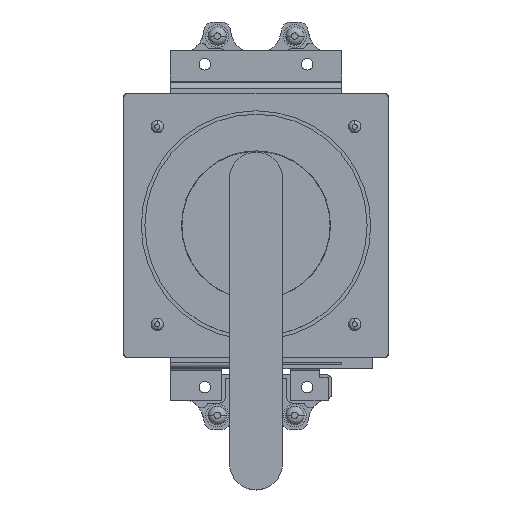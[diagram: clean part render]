
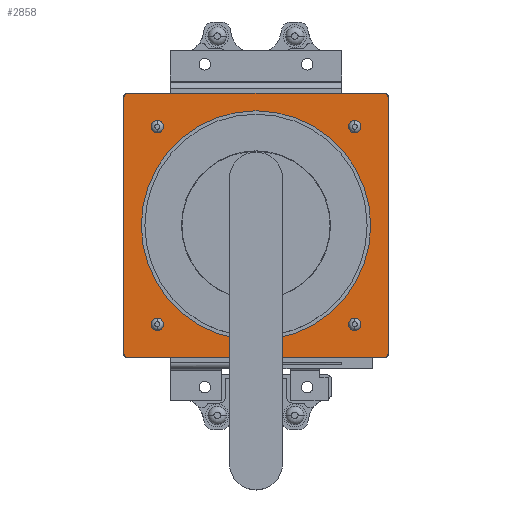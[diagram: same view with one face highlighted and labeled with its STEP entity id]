
A CAD part, top view. The second image highlights one B-rep face of the part: STEP entity #2858.
In plain terms, the highlighted planar face has unit normal (0, 0, 1).
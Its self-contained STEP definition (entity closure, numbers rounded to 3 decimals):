
#2858 = ADVANCED_FACE( '', ( #8042, #8043, #8044, #8045, #8046, #8047 ), #8048, .T. );
#2988 = VERTEX_POINT( '', #8186 );
#3186 = VERTEX_POINT( '', #8405 );
#3206 = VERTEX_POINT( '', #8427 );
#3508 = EDGE_CURVE( '', #3528, #7302, #8768, .T. );
#3516 = EDGE_CURVE( '', #5570, #5682, #8776, .T. );
#3528 = VERTEX_POINT( '', #8789 );
#3536 = VERTEX_POINT( '', #8798 );
#3690 = VERTEX_POINT( '', #8962 );
#3744 = VERTEX_POINT( '', #9023 );
#4008 = EDGE_CURVE( '', #3186, #5134, #9314, .T. );
#4048 = EDGE_CURVE( '', #5134, #3744, #9359, .T. );
#4052 = EDGE_CURVE( '', #3744, #4478, #9363, .T. );
#4262 = EDGE_CURVE( '', #5302, #3536, #9598, .T. );
#4478 = VERTEX_POINT( '', #9841 );
#4698 = EDGE_CURVE( '', #3206, #6668, #10082, .T. );
#4700 = EDGE_CURVE( '', #6668, #3206, #10084, .T. );
#4864 = EDGE_CURVE( '', #2988, #6952, #10275, .T. );
#5134 = VERTEX_POINT( '', #10575 );
#5302 = VERTEX_POINT( '', #10757 );
#5502 = EDGE_CURVE( '', #7406, #3690, #10976, .T. );
#5570 = VERTEX_POINT( '', #11047 );
#5682 = VERTEX_POINT( '', #11179 );
#5932 = VERTEX_POINT( '', #11450 );
#6160 = EDGE_CURVE( '', #5682, #6284, #11706, .T. );
#6284 = VERTEX_POINT( '', #11850 );
#6378 = EDGE_CURVE( '', #6952, #2988, #11951, .T. );
#6408 = EDGE_CURVE( '', #6284, #5932, #11982, .T. );
#6622 = EDGE_CURVE( '', #3536, #5302, #12217, .T. );
#6668 = VERTEX_POINT( '', #12268 );
#6952 = VERTEX_POINT( '', #12584 );
#6986 = EDGE_CURVE( '', #7302, #3528, #12625, .T. );
#7102 = EDGE_CURVE( '', #5932, #3186, #12756, .T. );
#7302 = VERTEX_POINT( '', #12974 );
#7406 = VERTEX_POINT( '', #13086 );
#7458 = EDGE_CURVE( '', #3690, #7406, #13143, .T. );
#7750 = EDGE_CURVE( '', #4478, #5570, #13468, .T. );
#8042 = FACE_BOUND( '', #13847, .T. );
#8043 = FACE_OUTER_BOUND( '', #13848, .T. );
#8044 = FACE_BOUND( '', #13849, .T. );
#8045 = FACE_BOUND( '', #13850, .T. );
#8046 = FACE_BOUND( '', #13851, .T. );
#8047 = FACE_BOUND( '', #13852, .T. );
#8048 = PLANE( '', #13853 );
#8186 = CARTESIAN_POINT( '', ( 56., 58., 37.6 ) );
#8405 = CARTESIAN_POINT( '', ( -72., -75., 37.6 ) );
#8427 = CARTESIAN_POINT( '', ( -56., -54., 37.6 ) );
#8768 = CIRCLE( '', #14811, 65. );
#8776 = CIRCLE( '', #14824, 3. );
#8789 = CARTESIAN_POINT( '', ( 0., 65., 37.6 ) );
#8798 = CARTESIAN_POINT( '', ( 56., -54., 37.6 ) );
#8962 = CARTESIAN_POINT( '', ( -56., 58., 37.6 ) );
#9023 = CARTESIAN_POINT( '', ( -75., 72., 37.6 ) );
#9314 = CIRCLE( '', #15539, 3. );
#9359 = LINE( '', #15598, #15599 );
#9363 = CIRCLE( '', #15604, 3. );
#9598 = CIRCLE( '', #15940, 2. );
#9841 = CARTESIAN_POINT( '', ( -72., 75., 37.6 ) );
#10082 = CIRCLE( '', #16584, 2. );
#10084 = CIRCLE( '', #16587, 2. );
#10275 = CIRCLE( '', #16839, 2. );
#10575 = CARTESIAN_POINT( '', ( -75., -72., 37.6 ) );
#10757 = CARTESIAN_POINT( '', ( 56., -58., 37.6 ) );
#10976 = CIRCLE( '', #17776, 2. );
#11047 = CARTESIAN_POINT( '', ( 72., 75., 37.6 ) );
#11179 = CARTESIAN_POINT( '', ( 75., 72., 37.6 ) );
#11450 = CARTESIAN_POINT( '', ( 72., -75., 37.6 ) );
#11706 = LINE( '', #18761, #18762 );
#11850 = CARTESIAN_POINT( '', ( 75., -72., 37.6 ) );
#11951 = CIRCLE( '', #19081, 2. );
#11982 = CIRCLE( '', #19123, 3. );
#12217 = CIRCLE( '', #19444, 2. );
#12268 = CARTESIAN_POINT( '', ( -56., -58., 37.6 ) );
#12584 = CARTESIAN_POINT( '', ( 56., 54., 37.6 ) );
#12625 = CIRCLE( '', #19983, 65. );
#12756 = LINE( '', #20163, #20164 );
#12974 = CARTESIAN_POINT( '', ( 0., -65., 37.6 ) );
#13086 = CARTESIAN_POINT( '', ( -56., 54., 37.6 ) );
#13143 = CIRCLE( '', #20676, 2. );
#13468 = LINE( '', #21112, #21113 );
#13847 = EDGE_LOOP( '', ( #21384, #21385 ) );
#13848 = EDGE_LOOP( '', ( #21386, #21387, #21388, #21389, #21390, #21391, #21392, #21393 ) );
#13849 = EDGE_LOOP( '', ( #21394, #21395 ) );
#13850 = EDGE_LOOP( '', ( #21396, #21397 ) );
#13851 = EDGE_LOOP( '', ( #21398, #21399 ) );
#13852 = EDGE_LOOP( '', ( #21400, #21401 ) );
#13853 = AXIS2_PLACEMENT_3D( '', #21402, #21403, #21404 );
#14811 = AXIS2_PLACEMENT_3D( '', #22201, #22202, #22203 );
#14824 = AXIS2_PLACEMENT_3D( '', #22206, #22207, #22208 );
#15539 = AXIS2_PLACEMENT_3D( '', #22841, #22842, #22843 );
#15598 = CARTESIAN_POINT( '', ( -75., 72., 37.6 ) );
#15599 = VECTOR( '', #22895, 1. );
#15604 = AXIS2_PLACEMENT_3D( '', #22896, #22897, #22898 );
#15940 = AXIS2_PLACEMENT_3D( '', #23191, #23192, #23193 );
#16584 = AXIS2_PLACEMENT_3D( '', #23755, #23756, #23757 );
#16587 = AXIS2_PLACEMENT_3D( '', #23758, #23759, #23760 );
#16839 = AXIS2_PLACEMENT_3D( '', #24061, #24062, #24063 );
#17776 = AXIS2_PLACEMENT_3D( '', #24839, #24840, #24841 );
#18761 = CARTESIAN_POINT( '', ( 75., -72., 37.6 ) );
#18762 = VECTOR( '', #25720, 1. );
#19081 = AXIS2_PLACEMENT_3D( '', #26037, #26038, #26039 );
#19123 = AXIS2_PLACEMENT_3D( '', #26058, #26059, #26060 );
#19444 = AXIS2_PLACEMENT_3D( '', #26328, #26329, #26330 );
#19983 = AXIS2_PLACEMENT_3D( '', #26838, #26839, #26840 );
#20163 = CARTESIAN_POINT( '', ( -72., -75., 37.6 ) );
#20164 = VECTOR( '', #27048, 1. );
#20676 = AXIS2_PLACEMENT_3D( '', #27411, #27412, #27413 );
#21112 = CARTESIAN_POINT( '', ( 72., 75., 37.6 ) );
#21113 = VECTOR( '', #27802, 1. );
#21384 = ORIENTED_EDGE( '', *, *, #6986, .T. );
#21385 = ORIENTED_EDGE( '', *, *, #3508, .T. );
#21386 = ORIENTED_EDGE( '', *, *, #7750, .F. );
#21387 = ORIENTED_EDGE( '', *, *, #4052, .F. );
#21388 = ORIENTED_EDGE( '', *, *, #4048, .F. );
#21389 = ORIENTED_EDGE( '', *, *, #4008, .F. );
#21390 = ORIENTED_EDGE( '', *, *, #7102, .F. );
#21391 = ORIENTED_EDGE( '', *, *, #6408, .F. );
#21392 = ORIENTED_EDGE( '', *, *, #6160, .F. );
#21393 = ORIENTED_EDGE( '', *, *, #3516, .F. );
#21394 = ORIENTED_EDGE( '', *, *, #4262, .F. );
#21395 = ORIENTED_EDGE( '', *, *, #6622, .F. );
#21396 = ORIENTED_EDGE( '', *, *, #4700, .F. );
#21397 = ORIENTED_EDGE( '', *, *, #4698, .F. );
#21398 = ORIENTED_EDGE( '', *, *, #5502, .F. );
#21399 = ORIENTED_EDGE( '', *, *, #7458, .F. );
#21400 = ORIENTED_EDGE( '', *, *, #6378, .F. );
#21401 = ORIENTED_EDGE( '', *, *, #4864, .F. );
#21402 = CARTESIAN_POINT( '', ( 0., 0., 37.6 ) );
#21403 = DIRECTION( '', ( 0., 0., 1. ) );
#21404 = DIRECTION( '', ( 0., -1., 0. ) );
#22201 = CARTESIAN_POINT( '', ( 0., 0., 37.6 ) );
#22202 = DIRECTION( '', ( 0., 0., -1. ) );
#22203 = DIRECTION( '', ( 0., -1., 0. ) );
#22206 = CARTESIAN_POINT( '', ( 72., 72., 37.6 ) );
#22207 = DIRECTION( '', ( 0., 0., -1. ) );
#22208 = DIRECTION( '', ( 1., 0., 0. ) );
#22841 = CARTESIAN_POINT( '', ( -72., -72., 37.6 ) );
#22842 = DIRECTION( '', ( 0., 0., -1. ) );
#22843 = DIRECTION( '', ( -1., 0., 0. ) );
#22895 = DIRECTION( '', ( 0., 1., 0. ) );
#22896 = CARTESIAN_POINT( '', ( -72., 72., 37.6 ) );
#22897 = DIRECTION( '', ( 0., 0., -1. ) );
#22898 = DIRECTION( '', ( 0., 1., 0. ) );
#23191 = CARTESIAN_POINT( '', ( 56., -56., 37.6 ) );
#23192 = DIRECTION( '', ( 0., 0., 1. ) );
#23193 = DIRECTION( '', ( 0., -1., 0. ) );
#23755 = CARTESIAN_POINT( '', ( -56., -56., 37.6 ) );
#23756 = DIRECTION( '', ( 0., 0., 1. ) );
#23757 = DIRECTION( '', ( 0., -1., 0. ) );
#23758 = CARTESIAN_POINT( '', ( -56., -56., 37.6 ) );
#23759 = DIRECTION( '', ( 0., 0., 1. ) );
#23760 = DIRECTION( '', ( 0., -1., 0. ) );
#24061 = CARTESIAN_POINT( '', ( 56., 56., 37.6 ) );
#24062 = DIRECTION( '', ( 0., 0., 1. ) );
#24063 = DIRECTION( '', ( 0., -1., 0. ) );
#24839 = CARTESIAN_POINT( '', ( -56., 56., 37.6 ) );
#24840 = DIRECTION( '', ( 0., 0., 1. ) );
#24841 = DIRECTION( '', ( 0., -1., 0. ) );
#25720 = DIRECTION( '', ( 0., -1., 0. ) );
#26037 = CARTESIAN_POINT( '', ( 56., 56., 37.6 ) );
#26038 = DIRECTION( '', ( 0., 0., 1. ) );
#26039 = DIRECTION( '', ( 0., -1., 0. ) );
#26058 = CARTESIAN_POINT( '', ( 72., -72., 37.6 ) );
#26059 = DIRECTION( '', ( 0., 0., -1. ) );
#26060 = DIRECTION( '', ( 0., -1., 0. ) );
#26328 = CARTESIAN_POINT( '', ( 56., -56., 37.6 ) );
#26329 = DIRECTION( '', ( 0., 0., 1. ) );
#26330 = DIRECTION( '', ( 0., -1., 0. ) );
#26838 = CARTESIAN_POINT( '', ( 0., 0., 37.6 ) );
#26839 = DIRECTION( '', ( 0., 0., -1. ) );
#26840 = DIRECTION( '', ( 0., -1., 0. ) );
#27048 = DIRECTION( '', ( -1., 0., 0. ) );
#27411 = CARTESIAN_POINT( '', ( -56., 56., 37.6 ) );
#27412 = DIRECTION( '', ( 0., 0., 1. ) );
#27413 = DIRECTION( '', ( 0., -1., 0. ) );
#27802 = DIRECTION( '', ( 1., 0., 0. ) );
